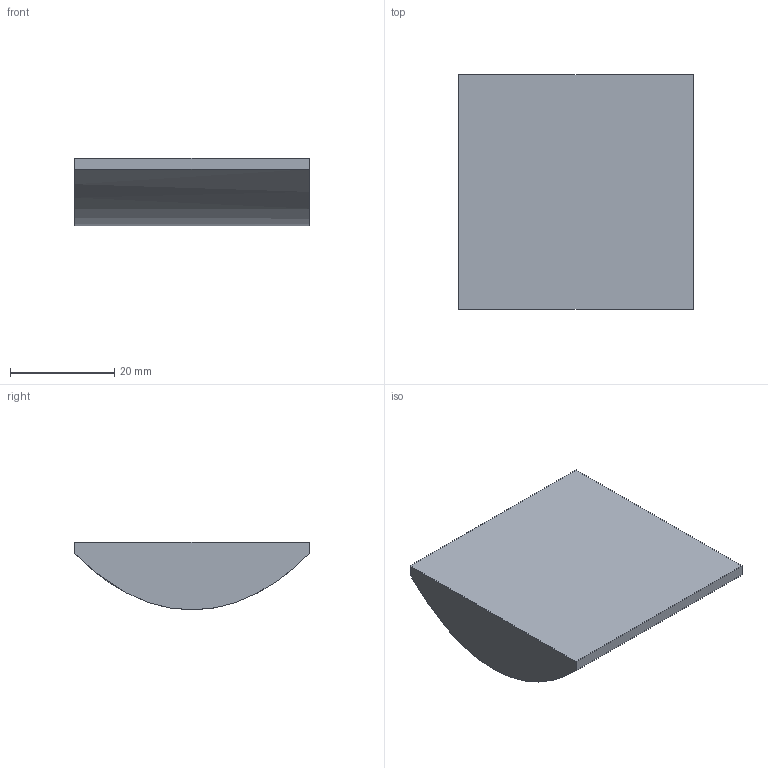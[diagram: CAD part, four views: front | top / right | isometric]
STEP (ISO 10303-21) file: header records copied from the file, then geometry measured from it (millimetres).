
FILE_DESCRIPTION ((), '1');
FILE_NAME ('\\fileserver\Daten\Applikationen\Optikdesign\SPA-Design\aktuelle SPA-Designs\Linsenkataloge - 2016-Juni\Zemax\CHL\CHL45-32.STP', '2016-05-24T14:27:57', ('Unknown'), ('Unknown'), 'HarmonyWare STEP v2.0.1', 'HarmonyWare Translators', '');
FILE_SCHEMA (('CONFIG_CONTROL_DESIGN'));
Length unit declared in the file: millimetre
Products named in the file (1): NONE
Bounding box: 45 x 45 x 13 mm (x, y, z)
Volume: 19164.2 mm3; surface area: 5379.9 mm2
Topology: 1 solids, 1 shells, 6 faces, 12 edges, 8 vertices
Faces by surface type: plane 3, bspline 3
Entity records: 424 total; most frequent: CARTESIAN_POINT 241, ORIENTED_EDGE 24, B_SPLINE_CURVE_WITH_KNOTS 12, EDGE_CURVE 12, VERTEX_POINT 8, PERSON 8, ORGANIZATION 8, PERSON_AND_ORGANIZATION 8
